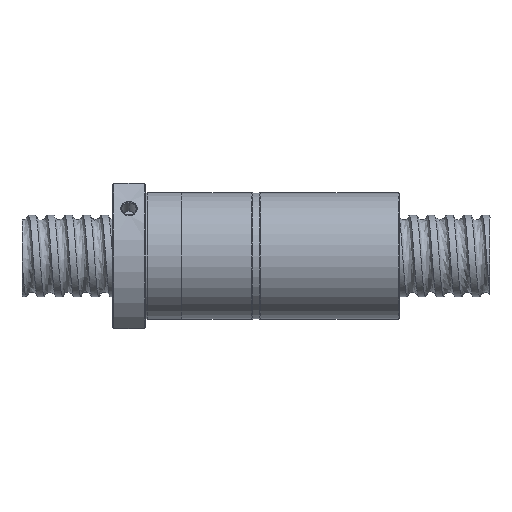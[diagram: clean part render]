
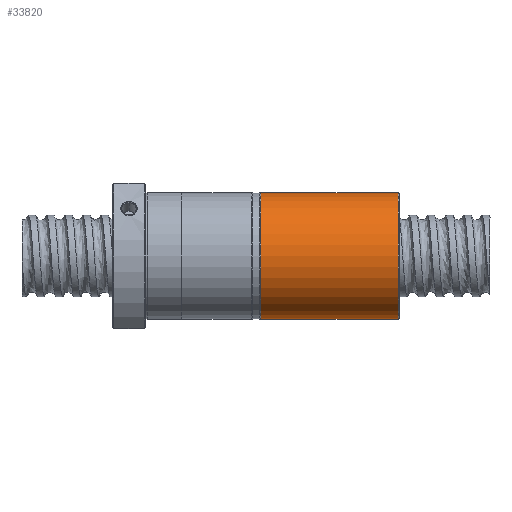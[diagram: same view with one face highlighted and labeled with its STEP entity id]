
A CAD part, front view. The second image highlights one B-rep face of the part: STEP entity #33820.
In plain terms, the highlighted cylindrical face has radius 34.9 mm (diameter 69.8 mm), a partial arc.
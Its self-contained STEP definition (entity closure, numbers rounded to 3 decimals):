
#30410 = CARTESIAN_POINT ( 'NONE',  ( -0.5, 0., -34.9 ) ) ;
#30411 = CARTESIAN_POINT ( 'NONE',  ( -0.5, 0., 34.9 ) ) ;
#30458 = CARTESIAN_POINT ( 'NONE',  ( -76.51, 0., 34.9 ) ) ;
#30459 = CARTESIAN_POINT ( 'NONE',  ( -76.51, 0., -34.9 ) ) ;
#30680 = DIRECTION ( 'NONE',  ( 0., 0., 1. ) ) ;
#30681 = DIRECTION ( 'NONE',  ( 1., 0., 0. ) ) ;
#30682 = CARTESIAN_POINT ( 'NONE',  ( -76.51, 0., 0. ) ) ;
#30683 = AXIS2_PLACEMENT_3D ( 'NONE', #30682, #30681, #30680 ) ;
#30684 = CIRCLE ( 'NONE', #30683, 34.9 ) ;
#30685 = DIRECTION ( 'NONE',  ( 0., 0., -1. ) ) ;
#30686 = DIRECTION ( 'NONE',  ( -1., 0., 0. ) ) ;
#30687 = CARTESIAN_POINT ( 'NONE',  ( -0.5, 0., 0. ) ) ;
#30688 = AXIS2_PLACEMENT_3D ( 'NONE', #30687, #30686, #30685 ) ;
#30689 = CIRCLE ( 'NONE', #30688, 34.9 ) ;
#32456 = DIRECTION ( 'NONE',  ( -1., 0., 0. ) ) ;
#32458 = VECTOR ( 'NONE', #32456, 1000. ) ;
#32459 = CARTESIAN_POINT ( 'NONE',  ( 0., 0., -34.9 ) ) ;
#32460 = LINE ( 'NONE', #32459, #32458 ) ;
#33287 = VERTEX_POINT ( 'NONE', #30411 ) ;
#33288 = VERTEX_POINT ( 'NONE', #30410 ) ;
#33363 = VERTEX_POINT ( 'NONE', #30459 ) ;
#33364 = VERTEX_POINT ( 'NONE', #30458 ) ;
#33436 = EDGE_LOOP ( 'NONE', ( #33821, #33822, #33438, #33439 ) ) ;
#33437 = EDGE_CURVE ( 'NONE', #33288, #33287, #30689, .T. ) ;
#33438 = ORIENTED_EDGE ( 'NONE', *, *, #33512, .T. ) ;
#33439 = ORIENTED_EDGE ( 'NONE', *, *, #33440, .T. ) ;
#33440 = EDGE_CURVE ( 'NONE', #33364, #33363, #30684, .T. ) ;
#33504 = EDGE_CURVE ( 'NONE', #33288, #33363, #32460, .T. ) ;
#33512 = EDGE_CURVE ( 'NONE', #33287, #33364, #34466, .T. ) ;
#33820 = ADVANCED_FACE ( 'NONE', ( #47670 ), #47668, .T. ) ;
#33821 = ORIENTED_EDGE ( 'NONE', *, *, #33504, .F. ) ;
#33822 = ORIENTED_EDGE ( 'NONE', *, *, #33437, .T. ) ;
#34466 = LINE ( 'NONE', #34474, #34472 ) ;
#34470 = DIRECTION ( 'NONE',  ( -1., 0., 0. ) ) ;
#34472 = VECTOR ( 'NONE', #34470, 1000. ) ;
#34474 = CARTESIAN_POINT ( 'NONE',  ( 0., 0., 34.9 ) ) ;
#47616 = DIRECTION ( 'NONE',  ( 0., 0., 1. ) ) ;
#47617 = AXIS2_PLACEMENT_3D ( 'NONE', #47667, #47669, #47616 ) ;
#47667 = CARTESIAN_POINT ( 'NONE',  ( 0., 0., 0. ) ) ;
#47668 = CYLINDRICAL_SURFACE ( 'NONE', #47617, 34.9 ) ;
#47669 = DIRECTION ( 'NONE',  ( -1., 0., 0. ) ) ;
#47670 = FACE_OUTER_BOUND ( 'NONE', #33436, .T. ) ;
